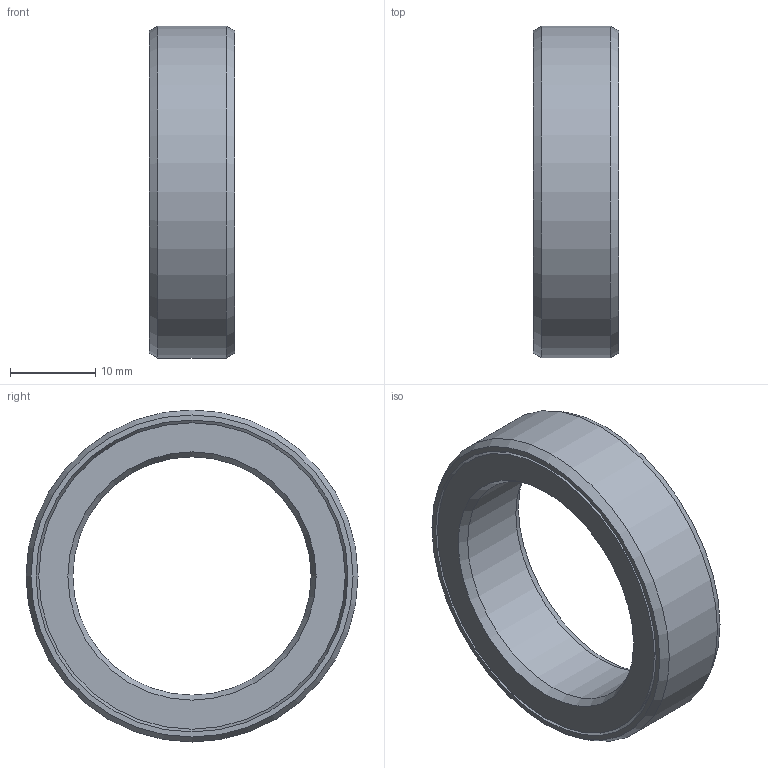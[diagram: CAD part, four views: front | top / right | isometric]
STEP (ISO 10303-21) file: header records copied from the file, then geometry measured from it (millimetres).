
FILE_DESCRIPTION(/* description */ (''),/* implementation_level */ '2;1');
FILE_NAME(/* name */ '301187 L 28x39x10.stp',/* time_stamp */ '2016-12-15T09:12:39+01:00',/* author */ (''),/* organization */ (''),/* preprocessor_version */ 'ST-DEVELOPER v15',/* originating_system */ 'SIEMENS PLM Software NX 8.5',/* authorisation */ '');
FILE_SCHEMA (('CONFIG_CONTROL_DESIGN'));
Length unit declared in the file: millimetre
Products named in the file (1): ATE0000122_01
Bounding box: 10 x 39 x 39 mm (x, y, z)
Volume: 5279.5 mm3; surface area: 5594.2 mm2
Topology: 2 solids, 2 shells, 18 faces, 34 edges, 20 vertices
Faces by surface type: cone 12, plane 4, cylinder 2
Full cylindrical faces by diameter (mm): 28 x1, 39 x1
Entity records: 454 total; most frequent: DIRECTION 74, CARTESIAN_POINT 55, AXIS2_PLACEMENT_3D 37, FACE_BOUND 36, EDGE_LOOP 36, ORIENTED_EDGE 36, ADVANCED_FACE 18, VERTEX_POINT 18
